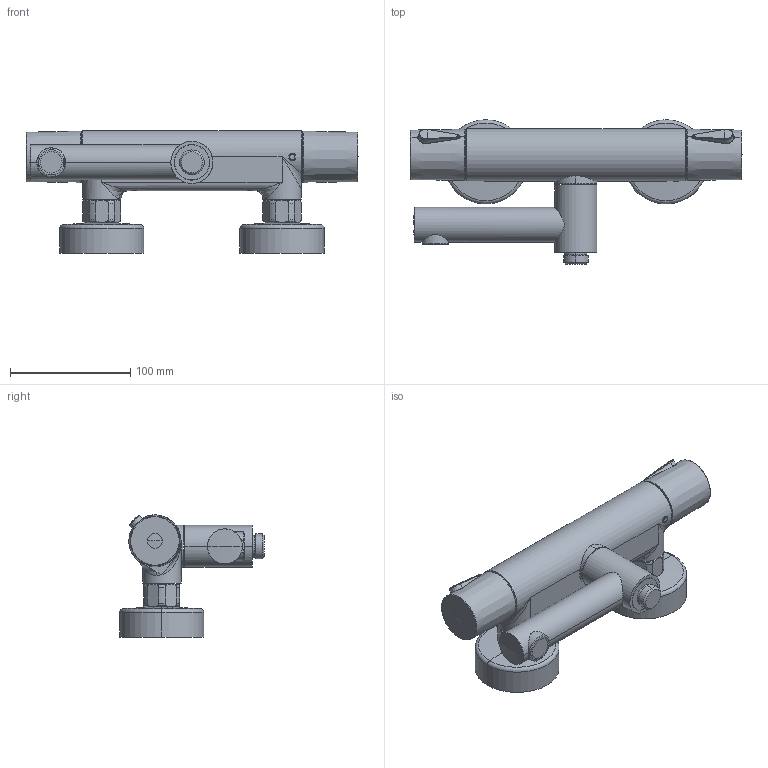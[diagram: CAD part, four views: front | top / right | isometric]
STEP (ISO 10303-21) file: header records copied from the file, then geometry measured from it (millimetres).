
FILE_DESCRIPTION((''),'2;1');
FILE_NAME('74510--35_SCRINKWRAP','2026-09-04T13:13:11',('clra1'),(''),'CREO PARAMETRIC BY PTC INC, 2022244','CREO PARAMETRIC BY PTC INC, 2022244','');
FILE_SCHEMA(('CONFIG_CONTROL_DESIGN'));
Length unit declared in the file: millimetre
Products named in the file (1): 74510--35_SCRINKWRAP
Bounding box: 276.21 x 120.2 x 101.85 mm (x, y, z)
Surface area: 105121.7 mm2 (no closed solid volume)
Topology: 0 solids, 30 shells, 220 faces, 596 edges, 390 vertices
Faces by surface type: plane 50, bspline 44, cylinder 43, torus 39, cone 34, sphere 10
Entity records: 11120 total; most frequent: CARTESIAN_POINT 6101, ORIENTED_EDGE 1036, DIRECTION 959, EDGE_CURVE 590, AXIS2_PLACEMENT_3D 415, VERTEX_POINT 390, CIRCLE 239, B_SPLINE_CURVE_WITH_KNOTS 222
